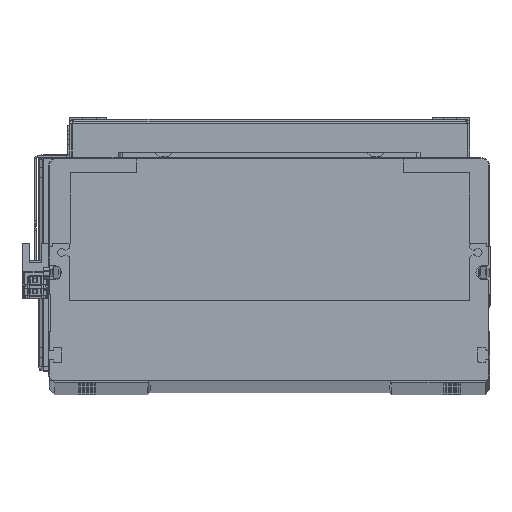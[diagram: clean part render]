
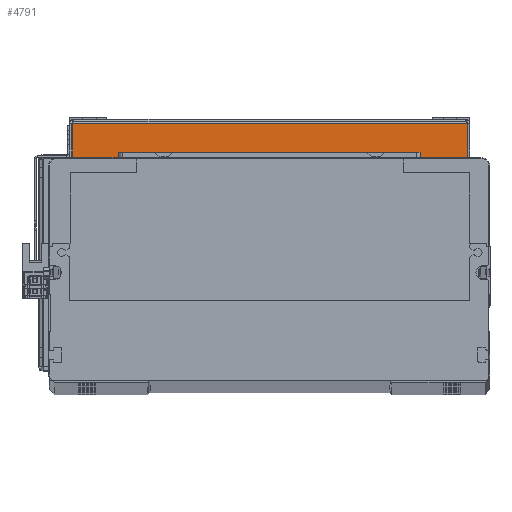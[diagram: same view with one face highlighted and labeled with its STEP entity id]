
A CAD part, top view. The second image highlights one B-rep face of the part: STEP entity #4791.
In plain terms, the highlighted planar face has unit normal (0, 0, 1) as drawn and (0, -1, 0) by its records, which use the part's own axes.
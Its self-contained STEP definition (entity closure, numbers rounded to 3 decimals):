
#526 = DIRECTION ( 'NONE',  ( 1., 0., 0. ) ) ;
#4791 = ADVANCED_FACE ( 'NONE', ( #8337 ), #20383, .F. ) ;
#5115 = CARTESIAN_POINT ( 'NONE',  ( 98.7, -150., 20.3 ) ) ;
#8337 = FACE_OUTER_BOUND ( 'NONE', #28302, .T. ) ;
#9509 = CARTESIAN_POINT ( 'NONE',  ( -98.7, -150., 0. ) ) ;
#10948 = CARTESIAN_POINT ( 'NONE',  ( 100., -150., 20.3 ) ) ;
#12534 = VECTOR ( 'NONE', #37079, 1000. ) ;
#13061 = CARTESIAN_POINT ( 'NONE',  ( 98.7, -150., 20.3 ) ) ;
#16049 = VERTEX_POINT ( 'NONE', #13061 ) ;
#16479 = VERTEX_POINT ( 'NONE', #9509 ) ;
#16893 = DIRECTION ( 'NONE',  ( 0., 0., -1. ) ) ;
#17107 = CARTESIAN_POINT ( 'NONE',  ( 0., -150., 0. ) ) ;
#17684 = EDGE_CURVE ( 'NONE', #31108, #16049, #47481, .T. ) ;
#19249 = VECTOR ( 'NONE', #16893, 1000. ) ;
#19490 = EDGE_CURVE ( 'NONE', #31108, #16479, #40687, .T. ) ;
#20189 = DIRECTION ( 'NONE',  ( 0., 0., -1. ) ) ;
#20307 = LINE ( 'NONE', #17107, #35364 ) ;
#20383 = PLANE ( 'NONE',  #47575 ) ;
#21166 = CARTESIAN_POINT ( 'NONE',  ( 0., -150., 21.3 ) ) ;
#24690 = ORIENTED_EDGE ( 'NONE', *, *, #19490, .T. ) ;
#26912 = EDGE_CURVE ( 'NONE', #16049, #46096, #41669, .T. ) ;
#27449 = CARTESIAN_POINT ( 'NONE',  ( -98.7, -150., 20.3 ) ) ;
#28302 = EDGE_LOOP ( 'NONE', ( #48942, #24690, #39784, #46774 ) ) ;
#31108 = VERTEX_POINT ( 'NONE', #27449 ) ;
#32353 = DIRECTION ( 'NONE',  ( 0., 0., -1. ) ) ;
#35364 = VECTOR ( 'NONE', #526, 1000. ) ;
#36622 = DIRECTION ( 'NONE',  ( 0., 1., 0. ) ) ;
#37079 = DIRECTION ( 'NONE',  ( 1., 0., 0. ) ) ;
#39784 = ORIENTED_EDGE ( 'NONE', *, *, #51639, .T. ) ;
#40687 = LINE ( 'NONE', #41227, #42550 ) ;
#41227 = CARTESIAN_POINT ( 'NONE',  ( -98.7, -150., 20.3 ) ) ;
#41669 = LINE ( 'NONE', #5115, #19249 ) ;
#42550 = VECTOR ( 'NONE', #20189, 1000. ) ;
#43963 = CARTESIAN_POINT ( 'NONE',  ( 98.7, -150., 0. ) ) ;
#46096 = VERTEX_POINT ( 'NONE', #43963 ) ;
#46774 = ORIENTED_EDGE ( 'NONE', *, *, #26912, .F. ) ;
#47481 = LINE ( 'NONE', #10948, #12534 ) ;
#47575 = AXIS2_PLACEMENT_3D ( 'NONE', #21166, #36622, #32353 ) ;
#48942 = ORIENTED_EDGE ( 'NONE', *, *, #17684, .F. ) ;
#51639 = EDGE_CURVE ( 'NONE', #16479, #46096, #20307, .T. ) ;
